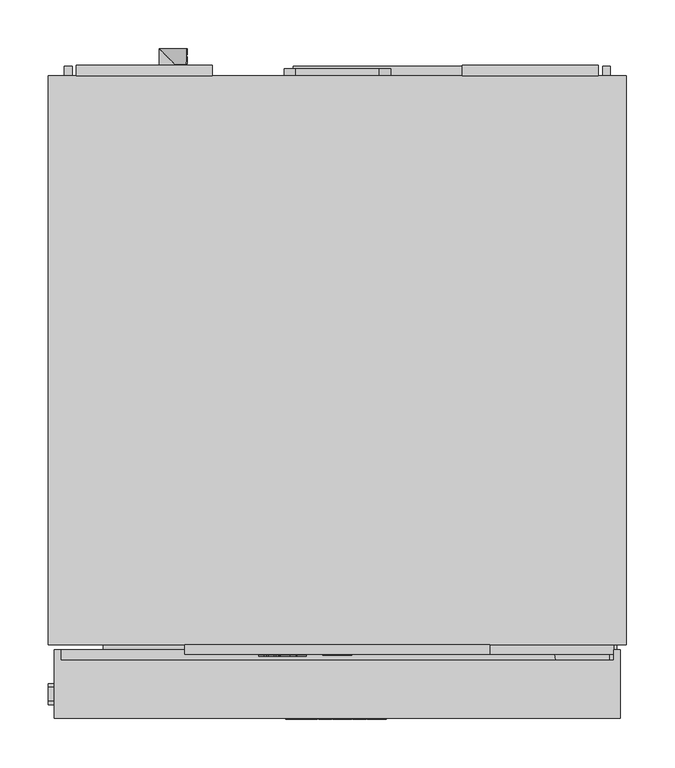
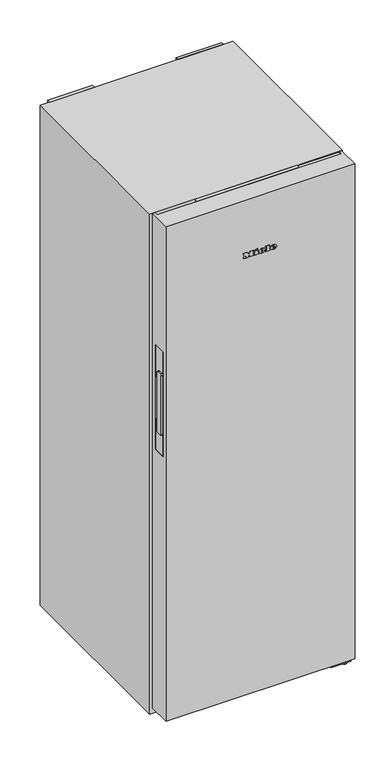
"""IFC4 building model written with IfcOpenShell, lengths in millimetres: proxy geometry, 12336550_EU1_FN4824C_WS : 37482434_EU1_12336550_FN4824C_WS."""

from ifc_helpers import new_model, si_unit, point, frame, frame_2d, origin, origin_with_axes, place, context, project, spatial, polyline, circle_curve, ellipse_curve, trimmed, segment, composite_curve, outline, extrude, faceted_brep, source, transform, mapped, element, save
from ifc_brep_helpers import plane_surface, cylinder_surface, revolved_surface, extruded_surface, advanced_brep


def specialty_equipment_60e76cb6(model_context):
    return source(origin(), model_context, "Body", "SolidModel", [
        extrude(outline(polyline([(15.0, -609.5), (-15.0, -609.5), (-15.0, -606.5), (15.0, -606.5), (15.0, -609.5)])), frame((0.0, 0.0, 1612.0), z_axis=(0.0, 0.0, 1.0), x_axis=(1.0, 0.0, 0.0)), (0.0, 0.0, 1.0), 28.0),
        extrude(outline(polyline([(1645.5, 105.0), (1645.5, -105.0), (1606.5, -105.0), (1606.5, 105.0), (1645.5, 105.0)]), holes=[polyline([(1640.0, -15.0), (1640.0, 15.0), (1612.0, 15.0), (1612.0, -15.0), (1640.0, -15.0)])]), frame((0.0, -608.5, 0.0), z_axis=(0.0, 1.0, 0.0), x_axis=(0.0, 0.0, 1.0)), (0.0, 0.0, 1.0), 2.0),
        faceted_brep([(157.5, -598.5, 1602.0), (157.5, -608.5, 1602.0), (-157.5, -608.5, 1602.0), (-157.5, -598.5, 1602.0), (157.5, -598.5, 1650.0), (-157.5, -598.5, 1650.0), (-157.5, -608.5, 1650.0), (157.5, -608.5, 1650.0), (-105.0, -608.5, 1645.5), (105.0, -608.5, 1645.5), (105.0, -608.5, 1606.5), (-105.0, -608.5, 1606.5), (105.0, -606.5, 1645.5), (-105.0, -606.5, 1645.5), (-105.0, -606.5, 1606.5), (105.0, -606.5, 1606.5)], [[[0, 1, 2, 3]], [[4, 5, 6, 7]], [[0, 3, 5, 4]], [[3, 2, 6, 5]], [[2, 1, 7, 6], [8, 9, 10, 11]], [[1, 0, 4, 7]], [[12, 13, 14, 15]], [[13, 12, 9, 8]], [[14, 13, 8, 11]], [[15, 14, 11, 10]], [[12, 15, 10, 9]]]),
        advanced_brep(
        [(39.0804776, -675.5, 1468.7956125), (39.0804776, -675.5, 1470.5126125), (50.4534776, -675.5, 1470.5126125), (30.6654776, -675.5, 1470.5126125), (35.3404776, -675.5, 1464.7666125), (50.1644776, -675.5, 1468.7956125), (45.0304776, -675.5, 1468.7956125), (40.9844776, -675.5, 1466.8916125), (39.0804776, -675.5, 1472.6886125), (39.0804776, -675.5, 1474.5416125), (41.9874776, -675.5, 1474.5416125), (41.9874776, -675.5, 1472.6886125), (39.0804776, -674.5, 1468.7956125), (40.9844776, -674.5, 1466.8916125), (45.0304776, -674.5, 1468.7956125), (50.1644776, -674.5, 1468.7956125), (35.3404776, -674.5, 1464.7666125), (30.6654776, -674.5, 1470.5126125), (50.4534776, -674.5, 1470.5126125), (39.0804776, -674.5, 1470.5126125), (39.0804776, -674.5, 1472.6886125), (41.9874776, -674.5, 1472.6886125), (41.9874776, -674.5, 1474.5416125), (39.0804776, -674.5, 1474.5416125)],
        [
            (0, 1),
            (1, 2),
            (2, 3, ellipse_curve(frame((40.5594776, -675.5, 1470.5126125), z_axis=(0.0, -1.0, 0.0), x_axis=(-1.0, 0.0, 0.0)), 9.894, 8.177)),
            (3, 4, circle_curve(frame((37.2445704, -675.5, 1471.0906125), z_axis=(0.0, -1.0, 0.0), x_axis=(0.0, 0.0, -1.0)), 6.6044337)),
            (4, 5, circle_curve(frame((40.361414, -675.5, 1475.5786125), z_axis=(0.0, -1.0, 0.0), x_axis=(0.0, 0.0, -1.0)), 11.9209541)),
            (5, 6),
            (6, 7, circle_curve(frame((41.8154776, -675.5, 1470.3766125), z_axis=(0.0, 1.0, 0.0), x_axis=(0.0, 0.0, -1.0)), 3.5827065)),
            (7, 0, circle_curve(frame((40.9844776, -675.5, 1468.7956125), z_axis=(0.0, 1.0, 0.0), x_axis=(0.0, 0.0, -1.0)), 1.904)),
            (8, 9),
            (9, 10, circle_curve(frame((40.5339776, -675.5, 1474.5416125), z_axis=(0.0, 1.0, 0.0), x_axis=(0.0, 0.0, -1.0)), 1.4535)),
            (10, 11),
            (11, 8),
            (12, 13, circle_curve(frame((40.9844776, -674.5, 1468.7956125), z_axis=(0.0, -1.0, 0.0), x_axis=(0.0, 0.0, -1.0)), 1.904)),
            (13, 14, circle_curve(frame((41.8154776, -674.5, 1470.3766125), z_axis=(0.0, -1.0, 0.0), x_axis=(0.0, 0.0, -1.0)), 3.5827065)),
            (14, 15),
            (15, 16, circle_curve(frame((40.361414, -674.5, 1475.5786125), z_axis=(0.0, 1.0, 0.0), x_axis=(0.0, 0.0, -1.0)), 11.9209541)),
            (16, 17, circle_curve(frame((37.2445704, -674.5, 1471.0906125), z_axis=(0.0, 1.0, 0.0), x_axis=(0.0, 0.0, -1.0)), 6.6044337)),
            (17, 18, ellipse_curve(frame((40.5594776, -674.5, 1470.5126125), z_axis=(0.0, 1.0, 0.0), x_axis=(-1.0, 0.0, 0.0)), 9.894, 8.177)),
            (18, 19),
            (19, 12),
            (20, 21),
            (21, 22),
            (22, 23, circle_curve(frame((40.5339776, -674.5, 1474.5416125), z_axis=(0.0, -1.0, 0.0), x_axis=(0.0, 0.0, -1.0)), 1.4535)),
            (23, 20),
            (0, 12),
            (19, 1),
            (18, 2),
            (5, 15),
            (14, 6),
            (17, 3),
            (13, 7),
            (16, 4),
            (8, 20),
            (23, 9),
            (22, 10),
            (21, 11),
        ],
        [
            plane_surface(frame((39.0804776, -675.5, 1470.5126125), z_axis=(0.0, -1.0, 0.0), x_axis=(0.0, 0.0, 1.0))),
            plane_surface(frame((39.0804776, -674.5, 1470.5126125), z_axis=(0.0, 1.0, 0.0), x_axis=(0.0, 0.0, -1.0))),
            plane_surface(frame((39.0804776, -675.5, 1468.7956125), z_axis=(1.0, 0.0, 0.0), x_axis=(0.0, 1.0, 0.0))),
            plane_surface(frame((39.0804776, -675.5, 1470.5126125), z_axis=(0.0, 0.0, -1.0), x_axis=(0.0, 1.0, 0.0))),
            plane_surface(frame((50.1644776, -675.5, 1468.7956125), z_axis=(0.0, 0.0, 1.0), x_axis=(0.0, 1.0, 0.0))),
            extruded_surface(trimmed(ellipse_curve(frame((40.5594776, -673.5, 1470.5126125), z_axis=(0.0, -1.0, 0.0), x_axis=(-1.0, 0.0, 0.0)), 9.894, 8.177), [point((50.4534776, -673.5, 1470.5126125))], [point((30.6654776, -673.5, 1470.5126125))], True, "CARTESIAN"), (0.0, -1.0, 0.0), 1.0),
            revolved_surface(polyline([(41.8154776, -674.5, 1466.7939059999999), (41.8154776, -675.5, 1466.7939059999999)]), (41.8154776, -674.5, 1470.3766125), (0.0, 1.0, 0.0)),
            revolved_surface(polyline([(40.9844776, -674.5, 1466.8916125), (40.9844776, -675.5, 1466.8916125)]), (40.9844776, -674.5, 1468.7956125), (0.0, 1.0, 0.0)),
            cylinder_surface(frame((37.2445704, -674.5, 1471.0906125), z_axis=(0.0, -1.0, 0.0), x_axis=(0.0, 0.0, -1.0)), 6.6044337),
            cylinder_surface(frame((40.361414, -674.5, 1475.5786125), z_axis=(0.0, -1.0, 0.0), x_axis=(0.0, 0.0, -1.0)), 11.9209541),
            plane_surface(frame((39.0804776, -675.5, 1472.6886125), z_axis=(1.0, 0.0, 0.0), x_axis=(0.0, 1.0, 0.0))),
            revolved_surface(polyline([(40.5339776, -674.5, 1473.0881124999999), (40.5339776, -675.5, 1473.0881124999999)]), (40.5339776, -674.5, 1474.5416125), (0.0, 1.0, 0.0)),
            plane_surface(frame((41.9874776, -675.5, 1474.5416125), z_axis=(-1.0, 0.0, 0.0), x_axis=(0.0, 1.0, 0.0))),
            plane_surface(frame((41.9874776, -675.5, 1472.6886125), z_axis=(0.0, 0.0, 1.0), x_axis=(0.0, 1.0, 0.0))),
        ],
        [
            (0, [[1, 2, 3, 4, 5, 6, 7, 8], [9, 10, 11, 12]]),
            (1, [[13, 14, 15, 16, 17, 18, 19, 20], [21, 22, 23, 24]]),
            (2, [[-1, 25, -20, 26]]),
            (3, [[-2, -26, -19, 27]]),
            (4, [[-6, 28, -15, 29]]),
            (5, [[-3, -27, -18, 30]]),
            (6, [[-7, -29, -14, 31]]),
            (7, [[-8, -31, -13, -25]]),
            (8, [[-4, -30, -17, 32]]),
            (9, [[-5, -32, -16, -28]]),
            (10, [[-9, 33, -24, 34]]),
            (11, [[-10, -34, -23, 35]]),
            (12, [[-11, -35, -22, 36]]),
            (13, [[-12, -36, -21, -33]]),
        ],
    ),
        advanced_brep(
        [(3.6014776, -675.5, 1468.7956125), (3.6014776, -675.5, 1470.5126125), (14.9744776, -675.5, 1470.5126125), (-4.8135224, -675.5, 1470.5126125), (-0.1385224, -675.5, 1464.7666125), (14.6854776, -675.5, 1468.7956125), (9.5514776, -675.5, 1468.7956125), (5.5054776, -675.5, 1466.8916125), (3.6014776, -675.5, 1472.6886125), (3.6014776, -675.5, 1474.5416125), (6.5084776, -675.5, 1474.5416125), (6.5084776, -675.5, 1472.6886125), (3.6014776, -674.5, 1468.7956125), (5.5054776, -674.5, 1466.8916125), (9.5514776, -674.5, 1468.7956125), (14.6854776, -674.5, 1468.7956125), (-0.1385224, -674.5, 1464.7666125), (-4.8135224, -674.5, 1470.5126125), (14.9744776, -674.5, 1470.5126125), (3.6014776, -674.5, 1470.5126125), (3.6014776, -674.5, 1472.6886125), (6.5084776, -674.5, 1472.6886125), (6.5084776, -674.5, 1474.5416125), (3.6014776, -674.5, 1474.5416125)],
        [
            (0, 1),
            (1, 2),
            (2, 3, ellipse_curve(frame((5.0804776, -675.5, 1470.5126125), z_axis=(0.0, -1.0, 0.0), x_axis=(-1.0, 0.0, 0.0)), 9.894, 8.177)),
            (3, 4, circle_curve(frame((1.7655704, -675.5, 1471.0906125), z_axis=(0.0, -1.0, 0.0), x_axis=(0.0, 0.0, -1.0)), 6.6044337)),
            (4, 5, circle_curve(frame((4.882414, -675.5, 1475.5786125), z_axis=(0.0, -1.0, 0.0), x_axis=(0.0, 0.0, -1.0)), 11.9209541)),
            (5, 6),
            (6, 7, circle_curve(frame((6.3364776, -675.5, 1470.3766125), z_axis=(0.0, 1.0, 0.0), x_axis=(0.0, 0.0, -1.0)), 3.5827065)),
            (7, 0, circle_curve(frame((5.5054776, -675.5, 1468.7956125), z_axis=(0.0, 1.0, 0.0), x_axis=(0.0, 0.0, -1.0)), 1.904)),
            (8, 9),
            (9, 10, circle_curve(frame((5.0549776, -675.5, 1474.5416125), z_axis=(0.0, 1.0, 0.0), x_axis=(0.0, 0.0, -1.0)), 1.4535)),
            (10, 11),
            (11, 8),
            (12, 13, circle_curve(frame((5.5054776, -674.5, 1468.7956125), z_axis=(0.0, -1.0, 0.0), x_axis=(0.0, 0.0, -1.0)), 1.904)),
            (13, 14, circle_curve(frame((6.3364776, -674.5, 1470.3766125), z_axis=(0.0, -1.0, 0.0), x_axis=(0.0, 0.0, -1.0)), 3.5827065)),
            (14, 15),
            (15, 16, circle_curve(frame((4.882414, -674.5, 1475.5786125), z_axis=(0.0, 1.0, 0.0), x_axis=(0.0, 0.0, -1.0)), 11.9209541)),
            (16, 17, circle_curve(frame((1.7655704, -674.5, 1471.0906125), z_axis=(0.0, 1.0, 0.0), x_axis=(0.0, 0.0, -1.0)), 6.6044337)),
            (17, 18, ellipse_curve(frame((5.0804776, -674.5, 1470.5126125), z_axis=(0.0, 1.0, 0.0), x_axis=(-1.0, 0.0, 0.0)), 9.894, 8.177)),
            (18, 19),
            (19, 12),
            (20, 21),
            (21, 22),
            (22, 23, circle_curve(frame((5.0549776, -674.5, 1474.5416125), z_axis=(0.0, -1.0, 0.0), x_axis=(0.0, 0.0, -1.0)), 1.4535)),
            (23, 20),
            (0, 12),
            (19, 1),
            (18, 2),
            (5, 15),
            (14, 6),
            (17, 3),
            (13, 7),
            (16, 4),
            (8, 20),
            (23, 9),
            (22, 10),
            (21, 11),
        ],
        [
            plane_surface(frame((3.6014776, -675.5, 1470.5126125), z_axis=(0.0, -1.0, 0.0), x_axis=(0.0, 0.0, 1.0))),
            plane_surface(frame((3.6014776, -674.5, 1470.5126125), z_axis=(0.0, 1.0, 0.0), x_axis=(0.0, 0.0, -1.0))),
            plane_surface(frame((3.6014776, -675.5, 1468.7956125), z_axis=(1.0, 0.0, 0.0), x_axis=(0.0, 1.0, 0.0))),
            plane_surface(frame((3.6014776, -675.5, 1470.5126125), z_axis=(0.0, 0.0, -1.0), x_axis=(0.0, 1.0, 0.0))),
            plane_surface(frame((14.6854776, -675.5, 1468.7956125), z_axis=(0.0, 0.0, 1.0), x_axis=(0.0, 1.0, 0.0))),
            extruded_surface(trimmed(ellipse_curve(frame((5.0804776, -673.5, 1470.5126125), z_axis=(0.0, -1.0, 0.0), x_axis=(-1.0, 0.0, 0.0)), 9.894, 8.177), [point((14.9744776, -673.5, 1470.5126125))], [point((-4.8135224, -673.5, 1470.5126125))], True, "CARTESIAN"), (0.0, -1.0, 0.0), 1.0),
            revolved_surface(polyline([(6.3364776, -674.5, 1466.7939059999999), (6.3364776, -675.5, 1466.7939059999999)]), (6.3364776, -674.5, 1470.3766125), (0.0, 1.0, 0.0)),
            revolved_surface(polyline([(5.5054776, -674.5, 1466.8916125), (5.5054776, -675.5, 1466.8916125)]), (5.5054776, -674.5, 1468.7956125), (0.0, 1.0, 0.0)),
            cylinder_surface(frame((1.7655704, -674.5, 1471.0906125), z_axis=(0.0, -1.0, 0.0), x_axis=(0.0, 0.0, -1.0)), 6.6044337),
            cylinder_surface(frame((4.882414, -674.5, 1475.5786125), z_axis=(0.0, -1.0, 0.0), x_axis=(0.0, 0.0, -1.0)), 11.9209541),
            plane_surface(frame((3.6014776, -675.5, 1472.6886125), z_axis=(1.0, 0.0, 0.0), x_axis=(0.0, 1.0, 0.0))),
            revolved_surface(polyline([(5.0549776, -674.5, 1473.0881124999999), (5.0549776, -675.5, 1473.0881124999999)]), (5.0549776, -674.5, 1474.5416125), (0.0, 1.0, 0.0)),
            plane_surface(frame((6.5084776, -675.5, 1474.5416125), z_axis=(-1.0, 0.0, 0.0), x_axis=(0.0, 1.0, 0.0))),
            plane_surface(frame((6.5084776, -675.5, 1472.6886125), z_axis=(0.0, 0.0, 1.0), x_axis=(0.0, 1.0, 0.0))),
        ],
        [
            (0, [[1, 2, 3, 4, 5, 6, 7, 8], [9, 10, 11, 12]]),
            (1, [[13, 14, 15, 16, 17, 18, 19, 20], [21, 22, 23, 24]]),
            (2, [[-1, 25, -20, 26]]),
            (3, [[-2, -26, -19, 27]]),
            (4, [[-6, 28, -15, 29]]),
            (5, [[-3, -27, -18, 30]]),
            (6, [[-7, -29, -14, 31]]),
            (7, [[-8, -31, -13, -25]]),
            (8, [[-4, -30, -17, 32]]),
            (9, [[-5, -32, -16, -28]]),
            (10, [[-9, 33, -24, 34]]),
            (11, [[-10, -34, -23, 35]]),
            (12, [[-11, -35, -22, 36]]),
            (13, [[-12, -36, -21, -33]]),
        ],
    ),
        extrude(outline(polyline([(1480.7636125, -14.9795224), (1478.0096125, -13.6875224), (1480.6956125, -7.9245224), (1483.4496125, -9.1995224), (1480.7636125, -14.9795224)])), frame((0.0, -675.5, 0.0), z_axis=(0.0, 1.0, 0.0), x_axis=(0.0, 0.0, 1.0)), (0.0, 0.0, 1.0), 1.0),
        extrude(outline(polyline([(1477.6356125, -19.1785224), (1474.5926125, -19.1785224), (1474.5926125, -17.1555224), (1467.6226125, -17.1555224), (1467.6226125, -19.1785224), (1464.7666125, -19.1785224), (1464.7666125, -5.7655224), (1467.6226125, -5.7655224), (1467.6226125, -7.7375224), (1477.6356125, -7.7375224), (1477.6356125, -19.1785224)])), frame((0.0, -675.5, 0.0), z_axis=(0.0, 1.0, 0.0), x_axis=(0.0, 0.0, 1.0)), (0.0, 0.0, 1.0), 1.0),
        extrude(outline(polyline([(1478.9956125, 15.9264776), (1478.9956125, 17.9664776), (1467.6226125, 17.9664776), (1467.6226125, 15.9264776), (1464.7666125, 15.9264776), (1464.7666125, 29.7134776), (1467.6226125, 29.7134776), (1467.6226125, 27.6224776), (1481.7666125, 27.6224776), (1481.7666125, 15.9264776), (1478.9956125, 15.9264776)])), frame((0.0, -675.5, 0.0), z_axis=(0.0, 1.0, 0.0), x_axis=(0.0, 0.0, 1.0)), (0.0, 0.0, 1.0), 1.0),
        extrude(outline(polyline([(1478.9956125, -53.0595224), (1478.9956125, -51.0025224), (1467.6226125, -51.0025224), (1467.6226125, -53.0595224), (1464.7666125, -53.0595224), (1464.7666125, -45.5795224), (1467.6226125, -45.5795224), (1467.6226125, -47.6195224), (1474.7967372, -47.6195224), (1464.7666125, -40.0205224), (1475.2068348, -32.3875224), (1467.6226125, -32.3875224), (1467.6226125, -34.4785224), (1464.7666125, -34.4785224), (1464.7666125, -20.9125224), (1467.6226125, -20.9125224), (1467.6226125, -23.0715224), (1478.9956125, -23.0715224), (1478.9956125, -20.9125224), (1481.7666125, -20.9125224), (1481.7666125, -31.2655224), (1475.3916125, -36.2295224), (1481.7666125, -41.2105224), (1481.7666125, -53.0595224), (1478.9956125, -53.0595224)])), frame((0.0, -675.5, 0.0), z_axis=(0.0, 1.0, 0.0), x_axis=(0.0, 0.0, 1.0)), (0.0, 0.0, 1.0), 1.0),
        advanced_brep(
        [(-37.64, -610.5, 1628.896), (-37.64, -610.5, 1629.704), (-32.288, -610.5, 1629.704), (-41.6, -610.5, 1629.704), (-39.4, -610.5, 1627.0), (-32.424, -610.5, 1628.896), (-34.84, -610.5, 1628.896), (-36.744, -610.5, 1628.0), (-37.64, -610.5, 1630.728), (-37.64, -610.5, 1631.6), (-36.272, -610.5, 1631.6), (-36.272, -610.5, 1630.728), (-37.64, -609.5, 1628.896), (-36.744, -609.5, 1628.0), (-34.84, -609.5, 1628.896), (-32.424, -609.5, 1628.896), (-39.4, -609.5, 1627.0), (-41.6, -609.5, 1629.704), (-32.288, -609.5, 1629.704), (-37.64, -609.5, 1629.704), (-37.64, -609.5, 1630.728), (-36.272, -609.5, 1630.728), (-36.272, -609.5, 1631.6), (-37.64, -609.5, 1631.6)],
        [
            (0, 1),
            (1, 2),
            (2, 3, ellipse_curve(frame((-36.944, -610.5, 1629.704), z_axis=(0.0, -1.0, 0.0), x_axis=(-1.0, 0.0, 0.0)), 4.656, 3.848)),
            (3, 4, circle_curve(frame((-38.5039564, -610.5, 1629.976), z_axis=(0.0, -1.0, 0.0), x_axis=(0.0, 0.0, -1.0)), 3.1079688)),
            (4, 5, circle_curve(frame((-37.0372064, -610.5, 1632.088), z_axis=(0.0, -1.0, 0.0), x_axis=(0.0, 0.0, -1.0)), 5.6098607)),
            (5, 6),
            (6, 7, circle_curve(frame((-36.3529412, -610.5, 1629.64), z_axis=(0.0, 1.0, 0.0), x_axis=(0.0, 0.0, -1.0)), 1.6859795)),
            (7, 0, circle_curve(frame((-36.744, -610.5, 1628.896), z_axis=(0.0, 1.0, 0.0), x_axis=(0.0, 0.0, -1.0)), 0.896)),
            (8, 9),
            (9, 10, circle_curve(frame((-36.956, -610.5, 1631.6), z_axis=(0.0, 1.0, 0.0), x_axis=(0.0, 0.0, -1.0)), 0.684)),
            (10, 11),
            (11, 8),
            (12, 13, circle_curve(frame((-36.744, -609.5, 1628.896), z_axis=(0.0, -1.0, 0.0), x_axis=(0.0, 0.0, -1.0)), 0.896)),
            (13, 14, circle_curve(frame((-36.3529412, -609.5, 1629.64), z_axis=(0.0, -1.0, 0.0), x_axis=(0.0, 0.0, -1.0)), 1.6859795)),
            (14, 15),
            (15, 16, circle_curve(frame((-37.0372064, -609.5, 1632.088), z_axis=(0.0, 1.0, 0.0), x_axis=(0.0, 0.0, -1.0)), 5.6098607)),
            (16, 17, circle_curve(frame((-38.5039564, -609.5, 1629.976), z_axis=(0.0, 1.0, 0.0), x_axis=(0.0, 0.0, -1.0)), 3.1079688)),
            (17, 18, ellipse_curve(frame((-36.944, -609.5, 1629.704), z_axis=(0.0, 1.0, 0.0), x_axis=(-1.0, 0.0, 0.0)), 4.656, 3.848)),
            (18, 19),
            (19, 12),
            (20, 21),
            (21, 22),
            (22, 23, circle_curve(frame((-36.956, -609.5, 1631.6), z_axis=(0.0, -1.0, 0.0), x_axis=(0.0, 0.0, -1.0)), 0.684)),
            (23, 20),
            (0, 12),
            (19, 1),
            (18, 2),
            (5, 15),
            (14, 6),
            (17, 3),
            (13, 7),
            (16, 4),
            (8, 20),
            (23, 9),
            (22, 10),
            (21, 11),
        ],
        [
            plane_surface(frame((-37.64, -610.5, 1629.704), z_axis=(0.0, -1.0, 0.0), x_axis=(0.0, 0.0, 1.0))),
            plane_surface(frame((-37.64, -609.5, 1629.704), z_axis=(0.0, 1.0, 0.0), x_axis=(0.0, 0.0, -1.0))),
            plane_surface(frame((-37.64, -610.5, 1628.896), z_axis=(1.0, 0.0, 0.0), x_axis=(0.0, 1.0, 0.0))),
            plane_surface(frame((-37.64, -610.5, 1629.704), z_axis=(0.0, 0.0, -1.0), x_axis=(0.0, 1.0, 0.0))),
            plane_surface(frame((-32.424, -610.5, 1628.896), z_axis=(0.0, 0.0, 1.0), x_axis=(0.0, 1.0, 0.0))),
            extruded_surface(trimmed(ellipse_curve(frame((-36.944, -608.5, 1629.704), z_axis=(0.0, -1.0, 0.0), x_axis=(-1.0, 0.0, 0.0)), 4.656, 3.848), [point((-32.288, -608.5, 1629.704))], [point((-41.6, -608.5, 1629.704))], True, "CARTESIAN"), (0.0, -1.0, 0.0), 1.0),
            revolved_surface(polyline([(-36.3529412, -609.5, 1627.9540205), (-36.3529412, -610.5, 1627.9540205)]), (-36.3529412, -609.5, 1629.64), (0.0, 1.0, 0.0)),
            revolved_surface(polyline([(-36.744, -609.5, 1628.0), (-36.744, -610.5, 1628.0)]), (-36.744, -609.5, 1628.896), (0.0, 1.0, 0.0)),
            cylinder_surface(frame((-38.5039564, -609.5, 1629.976), z_axis=(0.0, -1.0, 0.0), x_axis=(0.0, 0.0, -1.0)), 3.1079688),
            cylinder_surface(frame((-37.0372064, -609.5, 1632.088), z_axis=(0.0, -1.0, 0.0), x_axis=(0.0, 0.0, -1.0)), 5.6098607),
            plane_surface(frame((-37.64, -610.5, 1630.728), z_axis=(1.0, 0.0, 0.0), x_axis=(0.0, 1.0, 0.0))),
            revolved_surface(polyline([(-36.956, -609.5, 1630.916), (-36.956, -610.5, 1630.916)]), (-36.956, -609.5, 1631.6), (0.0, 1.0, 0.0)),
            plane_surface(frame((-36.272, -610.5, 1631.6), z_axis=(-1.0, 0.0, 0.0), x_axis=(0.0, 1.0, 0.0))),
            plane_surface(frame((-36.272, -610.5, 1630.728), z_axis=(0.0, 0.0, 1.0), x_axis=(0.0, 1.0, 0.0))),
        ],
        [
            (0, [[1, 2, 3, 4, 5, 6, 7, 8], [9, 10, 11, 12]]),
            (1, [[13, 14, 15, 16, 17, 18, 19, 20], [21, 22, 23, 24]]),
            (2, [[-1, 25, -20, 26]]),
            (3, [[-2, -26, -19, 27]]),
            (4, [[-6, 28, -15, 29]]),
            (5, [[-3, -27, -18, 30]]),
            (6, [[-7, -29, -14, 31]]),
            (7, [[-8, -31, -13, -25]]),
            (8, [[-4, -30, -17, 32]]),
            (9, [[-5, -32, -16, -28]]),
            (10, [[-9, 33, -24, 34]]),
            (11, [[-10, -34, -23, 35]]),
            (12, [[-11, -35, -22, 36]]),
            (13, [[-12, -36, -21, -33]]),
        ],
    ),
        advanced_brep(
        [(-54.336, -610.5, 1628.896), (-54.336, -610.5, 1629.704), (-48.984, -610.5, 1629.704), (-58.296, -610.5, 1629.704), (-56.096, -610.5, 1627.0), (-49.12, -610.5, 1628.896), (-51.536, -610.5, 1628.896), (-53.44, -610.5, 1628.0), (-54.336, -610.5, 1630.728), (-54.336, -610.5, 1631.6), (-52.968, -610.5, 1631.6), (-52.968, -610.5, 1630.728), (-54.336, -609.5, 1628.896), (-53.44, -609.5, 1628.0), (-51.536, -609.5, 1628.896), (-49.12, -609.5, 1628.896), (-56.096, -609.5, 1627.0), (-58.296, -609.5, 1629.704), (-48.984, -609.5, 1629.704), (-54.336, -609.5, 1629.704), (-54.336, -609.5, 1630.728), (-52.968, -609.5, 1630.728), (-52.968, -609.5, 1631.6), (-54.336, -609.5, 1631.6)],
        [
            (0, 1),
            (1, 2),
            (2, 3, ellipse_curve(frame((-53.64, -610.5, 1629.704), z_axis=(0.0, -1.0, 0.0), x_axis=(-1.0, 0.0, 0.0)), 4.656, 3.848)),
            (3, 4, circle_curve(frame((-55.1999564, -610.5, 1629.976), z_axis=(0.0, -1.0, 0.0), x_axis=(0.0, 0.0, -1.0)), 3.1079688)),
            (4, 5, circle_curve(frame((-53.7332064, -610.5, 1632.088), z_axis=(0.0, -1.0, 0.0), x_axis=(0.0, 0.0, -1.0)), 5.6098607)),
            (5, 6),
            (6, 7, circle_curve(frame((-53.0489412, -610.5, 1629.64), z_axis=(0.0, 1.0, 0.0), x_axis=(0.0, 0.0, -1.0)), 1.6859795)),
            (7, 0, circle_curve(frame((-53.44, -610.5, 1628.896), z_axis=(0.0, 1.0, 0.0), x_axis=(0.0, 0.0, -1.0)), 0.896)),
            (8, 9),
            (9, 10, circle_curve(frame((-53.652, -610.5, 1631.6), z_axis=(0.0, 1.0, 0.0), x_axis=(0.0, 0.0, -1.0)), 0.684)),
            (10, 11),
            (11, 8),
            (12, 13, circle_curve(frame((-53.44, -609.5, 1628.896), z_axis=(0.0, -1.0, 0.0), x_axis=(0.0, 0.0, -1.0)), 0.896)),
            (13, 14, circle_curve(frame((-53.0489412, -609.5, 1629.64), z_axis=(0.0, -1.0, 0.0), x_axis=(0.0, 0.0, -1.0)), 1.6859795)),
            (14, 15),
            (15, 16, circle_curve(frame((-53.7332064, -609.5, 1632.088), z_axis=(0.0, 1.0, 0.0), x_axis=(0.0, 0.0, -1.0)), 5.6098607)),
            (16, 17, circle_curve(frame((-55.1999564, -609.5, 1629.976), z_axis=(0.0, 1.0, 0.0), x_axis=(0.0, 0.0, -1.0)), 3.1079688)),
            (17, 18, ellipse_curve(frame((-53.64, -609.5, 1629.704), z_axis=(0.0, 1.0, 0.0), x_axis=(-1.0, 0.0, 0.0)), 4.656, 3.848)),
            (18, 19),
            (19, 12),
            (20, 21),
            (21, 22),
            (22, 23, circle_curve(frame((-53.652, -609.5, 1631.6), z_axis=(0.0, -1.0, 0.0), x_axis=(0.0, 0.0, -1.0)), 0.684)),
            (23, 20),
            (0, 12),
            (19, 1),
            (18, 2),
            (5, 15),
            (14, 6),
            (17, 3),
            (13, 7),
            (16, 4),
            (8, 20),
            (23, 9),
            (22, 10),
            (21, 11),
        ],
        [
            plane_surface(frame((-54.336, -610.5, 1629.704), z_axis=(0.0, -1.0, 0.0), x_axis=(0.0, 0.0, 1.0))),
            plane_surface(frame((-54.336, -609.5, 1629.704), z_axis=(0.0, 1.0, 0.0), x_axis=(0.0, 0.0, -1.0))),
            plane_surface(frame((-54.336, -610.5, 1628.896), z_axis=(1.0, 0.0, 0.0), x_axis=(0.0, 1.0, 0.0))),
            plane_surface(frame((-54.336, -610.5, 1629.704), z_axis=(0.0, 0.0, -1.0), x_axis=(0.0, 1.0, 0.0))),
            plane_surface(frame((-49.12, -610.5, 1628.896), z_axis=(0.0, 0.0, 1.0), x_axis=(0.0, 1.0, 0.0))),
            extruded_surface(trimmed(ellipse_curve(frame((-53.64, -608.5, 1629.704), z_axis=(0.0, -1.0, 0.0), x_axis=(-1.0, 0.0, 0.0)), 4.656, 3.848), [point((-48.984, -608.5, 1629.704))], [point((-58.296, -608.5, 1629.704))], True, "CARTESIAN"), (0.0, -1.0, 0.0), 1.0),
            revolved_surface(polyline([(-53.0489412, -609.5, 1627.9540205), (-53.0489412, -610.5, 1627.9540205)]), (-53.0489412, -609.5, 1629.64), (0.0, 1.0, 0.0)),
            revolved_surface(polyline([(-53.44, -609.5, 1628.0), (-53.44, -610.5, 1628.0)]), (-53.44, -609.5, 1628.896), (0.0, 1.0, 0.0)),
            cylinder_surface(frame((-55.1999564, -609.5, 1629.976), z_axis=(0.0, -1.0, 0.0), x_axis=(0.0, 0.0, -1.0)), 3.1079688),
            cylinder_surface(frame((-53.7332064, -609.5, 1632.088), z_axis=(0.0, -1.0, 0.0), x_axis=(0.0, 0.0, -1.0)), 5.6098607),
            plane_surface(frame((-54.336, -610.5, 1630.728), z_axis=(1.0, 0.0, 0.0), x_axis=(0.0, 1.0, 0.0))),
            revolved_surface(polyline([(-53.652, -609.5, 1630.916), (-53.652, -610.5, 1630.916)]), (-53.652, -609.5, 1631.6), (0.0, 1.0, 0.0)),
            plane_surface(frame((-52.968, -610.5, 1631.6), z_axis=(-1.0, 0.0, 0.0), x_axis=(0.0, 1.0, 0.0))),
            plane_surface(frame((-52.968, -610.5, 1630.728), z_axis=(0.0, 0.0, 1.0), x_axis=(0.0, 1.0, 0.0))),
        ],
        [
            (0, [[1, 2, 3, 4, 5, 6, 7, 8], [9, 10, 11, 12]]),
            (1, [[13, 14, 15, 16, 17, 18, 19, 20], [21, 22, 23, 24]]),
            (2, [[-1, 25, -20, 26]]),
            (3, [[-2, -26, -19, 27]]),
            (4, [[-6, 28, -15, 29]]),
            (5, [[-3, -27, -18, 30]]),
            (6, [[-7, -29, -14, 31]]),
            (7, [[-8, -31, -13, -25]]),
            (8, [[-4, -30, -17, 32]]),
            (9, [[-5, -32, -16, -28]]),
            (10, [[-9, 33, -24, 34]]),
            (11, [[-10, -34, -23, 35]]),
            (12, [[-11, -35, -22, 36]]),
            (13, [[-12, -36, -21, -33]]),
        ],
    ),
        extrude(outline(polyline([(1634.528, -63.08), (1633.232, -62.472), (1634.496, -59.76), (1635.792, -60.36), (1634.528, -63.08)])), frame((0.0, -610.5, 0.0), z_axis=(0.0, 1.0, 0.0), x_axis=(0.0, 0.0, 1.0)), (0.0, 0.0, 1.0), 1.0),
        extrude(outline(polyline([(1633.056, -65.056), (1631.624, -65.056), (1631.624, -64.104), (1628.344, -64.104), (1628.344, -65.056), (1627.0, -65.056), (1627.0, -58.744), (1628.344, -58.744), (1628.344, -59.672), (1633.056, -59.672), (1633.056, -65.056)])), frame((0.0, -610.5, 0.0), z_axis=(0.0, 1.0, 0.0), x_axis=(0.0, 0.0, 1.0)), (0.0, 0.0, 1.0), 1.0),
        extrude(outline(polyline([(1633.696, -48.536), (1633.696, -47.576), (1628.344, -47.576), (1628.344, -48.536), (1627.0, -48.536), (1627.0, -42.048), (1628.344, -42.048), (1628.344, -43.032), (1635.0, -43.032), (1635.0, -48.536), (1633.696, -48.536)])), frame((0.0, -610.5, 0.0), z_axis=(0.0, 1.0, 0.0), x_axis=(0.0, 0.0, 1.0)), (0.0, 0.0, 1.0), 1.0),
        extrude(outline(polyline([(1633.696, -81.0), (1633.696, -80.032), (1628.344, -80.032), (1628.344, -81.0), (1627.0, -81.0), (1627.0, -77.48), (1628.344, -77.48), (1628.344, -78.44), (1631.7471247, -78.44), (1627.0, -74.864), (1631.8152223, -71.272), (1628.344, -71.272), (1628.344, -72.256), (1627.0, -72.256), (1627.0, -65.872), (1628.344, -65.872), (1628.344, -66.888), (1633.696, -66.888), (1633.696, -65.872), (1635.0, -65.872), (1635.0, -70.744), (1632.0, -73.08), (1635.0, -75.424), (1635.0, -81.0), (1633.696, -81.0)])), frame((0.0, -610.5, 0.0), z_axis=(0.0, 1.0, 0.0), x_axis=(0.0, 0.0, 1.0)), (0.0, 0.0, 1.0), 1.0),
        extrude(outline(polyline([(-42.8527823, 0.0), (-48.1304417, 3.2708192), (-29.8908031, 3.2708192), (-34.9274229, 0.0), (-42.8527823, 0.0)])), frame((238.5469678, 0.0, 0.0), z_axis=(1.0, 0.0, 0.0), x_axis=(0.0, 1.0, 0.0)), (0.0, 0.0, 1.0), 15.1632647),
        extrude(outline(polyline([(-42.8527823, 0.0), (-48.1304417, 3.2708192), (-29.8908031, 3.2708192), (-34.9274229, 0.0), (-42.8527823, 0.0)])), frame((-253.7102325, 0.0, 0.0), z_axis=(1.0, 0.0, 0.0), x_axis=(0.0, 1.0, 0.0)), (0.0, 0.0, 1.0), 15.1632647),
        extrude(outline(polyline([(2.1227397, 65.0), (2.1227397, 75.045631), (9.343037, 75.045631), (9.343037, 73.7899271), (3.3784436, 73.7899271), (3.3784436, 70.8076304), (9.029111, 70.8076304), (9.029111, 69.5519266), (3.3784436, 69.5519266), (3.3784436, 66.2557039), (9.5, 66.2557039), (9.5, 65.0), (2.1227397, 65.0)])), frame((-156.0615355, 0.0, 0.0), z_axis=(1.0, 0.0, 0.0), x_axis=(0.0, 1.0, 0.0)), (0.0, 0.0, 1.0), 1.0),
        extrude(outline(polyline([(11.3835558, 65.0), (11.3835558, 75.045631), (12.6392597, 75.045631), (12.6392597, 66.2557039), (17.6620752, 66.2557039), (17.6620752, 65.0), (11.3835558, 65.0)])), frame((-156.0615355, 0.0, 0.0), z_axis=(1.0, 0.0, 0.0), x_axis=(0.0, 1.0, 0.0)), (0.0, 0.0, 1.0), 1.0),
        advanced_brep(
        [(-168.0615355, -10.5, 70.0), (-184.0615355, -10.5, 70.0), (-168.0615355, 1.5, 70.0), (-184.0615355, 17.5, 70.0), (-156.0615355, 1.5, 70.0), (-156.0615355, 17.5, 70.0)],
        [
            (0, 1, circle_curve(frame((-176.0615355, -10.5, 70.0), z_axis=(0.0, -1.0, 0.0), x_axis=(-1.0, 0.0, 0.0)), 8.0)),
            (1, 0, circle_curve(frame((-176.0615355, -10.5, 70.0), z_axis=(0.0, -1.0, 0.0), x_axis=(-1.0, 0.0, 0.0)), 8.0)),
            (0, 2),
            (2, 3, ellipse_curve(frame((-176.0615355, 9.5, 70.0), z_axis=(-0.7071067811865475, -0.7071067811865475, 0.0), x_axis=(0.7071067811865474, -0.7071067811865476, 0.0)), 11.3137085, 8.0)),
            (3, 1),
            (3, 2, ellipse_curve(frame((-176.0615355, 9.5, 70.0), z_axis=(-0.7071067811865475, -0.7071067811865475, 0.0), x_axis=(0.7071067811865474, -0.7071067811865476, 0.0)), 11.3137085, 8.0)),
            (4, 5, circle_curve(frame((-156.0615355, 9.5, 70.0), z_axis=(1.0, 0.0, 0.0), x_axis=(0.0, 1.0, 0.0)), 8.0)),
            (5, 4, circle_curve(frame((-156.0615355, 9.5, 70.0), z_axis=(1.0, 0.0, 0.0), x_axis=(0.0, 1.0, 0.0)), 8.0)),
            (2, 4),
            (5, 3),
        ],
        [
            plane_surface(frame((-176.0615355, -10.5, 0.0), z_axis=(0.0, -1.0, 0.0), x_axis=(0.0, 0.0, 1.0))),
            cylinder_surface(frame((-176.0615355, -10.5, 70.0), z_axis=(0.0, -1.0, 0.0), x_axis=(-1.0, 0.0, 0.0)), 8.0),
            plane_surface(frame((-156.0615355, 9.5, 0.0), z_axis=(1.0, 0.0, 0.0), x_axis=(0.0, 0.0, 1.0))),
            cylinder_surface(frame((-176.0615355, 9.5, 70.0), z_axis=(-1.0, 0.0, 0.0), x_axis=(0.0, 1.0, 0.0)), 8.0),
        ],
        [
            (0, [[1, 2]]),
            (1, [[-1, 3, 4, 5]]),
            (1, [[-2, -5, 6, -3]]),
            (2, [[7, 8]]),
            (3, [[-4, 9, -8, 10]]),
            (3, [[-6, -10, -7, -9]]),
        ],
    ),
        extrude(outline(polyline([(-118.9841834, 15.0), (-62.9841834, 15.0), (-75.5706779, 0.0), (-106.3976889, 0.0), (-118.9841834, 15.0)])), frame((-288.5, 0.0, 0.0), z_axis=(1.0, 0.0, 0.0), x_axis=(0.0, 1.0, 0.0)), (0.0, 0.0, 1.0), 16.0),
        extrude(outline(polyline([(-118.9841834, 15.0), (-62.9841834, 15.0), (-75.5706779, 0.0), (-106.3976889, 0.0), (-118.9841834, 15.0)])), frame((272.5, 0.0, 0.0), z_axis=(1.0, 0.0, 0.0), x_axis=(0.0, 1.0, 0.0)), (0.0, 0.0, 1.0), 16.0),
        extrude(outline(polyline([(281.8051758, -10.5), (274.2947998, -10.5), (274.2947998, -0.5), (281.8051758, -0.5), (281.8051758, -10.5)])), frame((0.0, 0.0, 239.4947815), z_axis=(0.0, 0.0, 1.0), x_axis=(1.0, 0.0, 0.0)), (0.0, 0.0, 1.0), 18.4103699),
        extrude(outline(polyline([(-274.0827332, -10.5), (-282.1051331, -10.5), (-282.1051331, -0.5), (-274.0827332, -0.5), (-274.0827332, -10.5)])), frame((0.0, 0.0, 239.4947815), z_axis=(0.0, 0.0, 1.0), x_axis=(1.0, 0.0, 0.0)), (0.0, 0.0, 1.0), 18.3224792),
        extrude(outline(polyline([(190.0, 177.5), (133.0, 177.5), (133.0, -45.5), (64.0, -45.5), (64.0, 258.5), (190.0, 258.5), (190.0, 177.5)])), frame((0.0, -10.5, 0.0), z_axis=(0.0, 1.0, 0.0), x_axis=(0.0, 0.0, 1.0)), (0.0, 0.0, 1.0), 10.0),
        extrude(outline(polyline([(269.5372046, -10.5), (129.0, -10.5), (129.0, 0.0), (269.5372046, 0.0), (269.5372046, -10.5)])), frame((0.0, 0.0, 1626.0), z_axis=(0.0, 0.0, 1.0), x_axis=(1.0, 0.0, 0.0)), (0.0, 0.0, 1.0), 24.0),
        extrude(outline(polyline([(-129.0, -10.5), (-269.5372046, -10.5), (-269.5372046, 0.0), (-129.0, 0.0), (-129.0, -10.5)])), frame((0.0, 0.0, 1626.0), z_axis=(0.0, 0.0, 1.0), x_axis=(1.0, 0.0, 0.0)), (0.0, 0.0, 1.0), 24.0),
        extrude(outline(polyline([(64.0, -159.5), (-64.0, -159.5), (-64.0, -71.5), (64.0, -71.5), (64.0, -159.5)])), frame((0.0, 0.0, 1436.0), z_axis=(0.0, 0.0, 1.0), x_axis=(1.0, 0.0, 0.0)), (0.0, 0.0, 1.0), 177.6535004),
        extrude(outline(polyline([(55.0, -521.5), (55.0, -575.5), (-55.0, -575.5), (-55.0, -521.5), (55.0, -521.5)])), frame((0.0, 0.0, 1559.0), z_axis=(0.0, 0.0, 1.0), x_axis=(1.0, 0.0, 0.0)), (0.0, 0.0, 1.0), 1.0),
        extrude(outline(composite_curve([segment(trimmed(circle_curve(frame_2d((-248.75, -584.5)), 10.0), [point((-258.75, -584.5))], [point((-238.75, -584.5))], False, "CARTESIAN"), True, "CONTINUOUS"), segment(trimmed(circle_curve(frame_2d((-248.75, -584.5)), 10.0), [point((-238.75, -584.5))], [point((-258.75, -584.5))], False, "CARTESIAN"), True, "CONTINUOUS")], self_intersect=False)), origin_with_axes(), (0.0, 0.0, 1.0), 15.0),
        extrude(outline(composite_curve([segment(trimmed(circle_curve(frame_2d((248.75, -584.4761218)), 10.0), [point((238.75, -584.4761218))], [point((258.75, -584.4761218))], False, "CARTESIAN"), True, "CONTINUOUS"), segment(trimmed(circle_curve(frame_2d((248.75, -584.4761218)), 10.0), [point((258.75, -584.4761218))], [point((238.75, -584.4761218))], False, "CARTESIAN"), True, "CONTINUOUS")], self_intersect=False)), origin_with_axes(), (0.0, 0.0, 1.0), 15.0),
        extrude(outline(polyline([(240.0, -290.5), (-240.0, -290.5), (-240.0, -71.5), (240.0, -71.5), (240.0, -290.5)])), frame((0.0, 0.0, 129.0), z_axis=(0.0, 0.0, 1.0), x_axis=(1.0, 0.0, 0.0)), (0.0, 0.0, 1.0), 190.0),
        extrude(outline(composite_curve([segment(trimmed(circle_curve(frame_2d((962.0, -43.0)), 12.0), [point((974.0, -43.0))], [point((962.0, -55.0))], False, "CARTESIAN"), True, "CONTINUOUS"), segment(polyline([(962.0, -55.0), (938.0, -55.0)]), True, "CONTINUOUS"), segment(trimmed(circle_curve(frame_2d((938.0, -43.0)), 12.0), [point((938.0, -55.0))], [point((926.0, -43.0))], False, "CARTESIAN"), True, "CONTINUOUS"), segment(polyline([(926.0, -43.0), (926.0, 43.0)]), True, "CONTINUOUS"), segment(trimmed(circle_curve(frame_2d((938.0, 43.0)), 12.0), [point((926.0, 43.0))], [point((938.0, 55.0))], False, "CARTESIAN"), True, "CONTINUOUS"), segment(polyline([(938.0, 55.0), (962.0, 55.0)]), True, "CONTINUOUS"), segment(trimmed(circle_curve(frame_2d((962.0, 43.0)), 12.0), [point((962.0, 55.0))], [point((974.0, 43.0))], False, "CARTESIAN"), True, "CONTINUOUS"), segment(polyline([(974.0, 43.0), (974.0, -43.0)]), True, "CONTINUOUS")], self_intersect=False)), frame((0.0, -10.5, 0.0), z_axis=(0.0, 1.0, 0.0), x_axis=(0.0, 0.0, 1.0)), (0.0, 0.0, 1.0), 7.0),
        extrude(outline(polyline([(272.5, -28.6436023), (272.5, -529.6387407), (-272.5, -529.6387407), (-272.5, -28.6436023), (272.5, -28.6436023)])), frame((0.0, 0.0, 3.2708192), z_axis=(0.0, 0.0, 1.0), x_axis=(1.0, 0.0, 0.0)), (0.0, 0.0, 1.0), 11.7291808),
        faceted_brep([(298.5, -10.5, 1650.0), (-298.5, -10.5, 1650.0), (-298.5, -598.5, 1650.0), (298.5, -598.5, 1650.0), (298.5, -10.5, 15.0), (298.5, -598.5, 15.0), (-298.5, -598.5, 15.0), (-298.5, -10.5, 15.0), (-240.0, -598.5, 1560.0), (240.0, -598.5, 1560.0), (240.0, -598.5, 129.0), (-240.0, -598.5, 129.0), (-240.0, -468.5, 1560.0), (240.0, -468.5, 1560.0), (240.0, -71.5, 129.0), (-240.0, -71.5, 129.0), (240.0, -71.5, 1613.6535004), (-240.0, -71.5, 1613.6535004), (-240.0, -468.5, 1613.6535004), (240.0, -468.5, 1613.6535004)], [[[0, 1, 2, 3]], [[4, 5, 6, 7]], [[1, 0, 4, 7]], [[2, 1, 7, 6]], [[3, 2, 6, 5], [8, 9, 10, 11]], [[0, 3, 5, 4]], [[9, 8, 12, 13]], [[14, 15, 11, 10]], [[15, 14, 16, 17]], [[15, 17, 18, 12, 8, 11]], [[16, 14, 10, 9, 13, 19]], [[19, 18, 17, 16]], [[18, 19, 13, 12]]]),
        extrude(outline(polyline([(-620.5, 1234.0), (-620.5, 1132.0), (-638.382514, 1132.0), (-638.382514, 992.5014777), (-620.5, 992.5014777), (-620.5, 893.0), (-660.5, 893.0), (-660.5, 1234.0), (-620.5, 1234.0)])), frame((-292.5, 0.0, 0.0), z_axis=(1.0, 0.0, 0.0), x_axis=(0.0, 1.0, 0.0)), (0.0, 0.0, 1.0), 30.0),
        extrude(outline(composite_curve([segment(polyline([(-638.5, 1158.0), (-638.5, 967.0)]), True, "CONTINUOUS"), segment(trimmed(circle_curve(frame_2d((-642.5, 967.0)), 4.0), [point((-638.5, 967.0))], [point((-642.5, 963.0))], False, "CARTESIAN"), True, "CONTINUOUS"), segment(polyline([(-642.5, 963.0), (-656.5, 963.0)]), True, "CONTINUOUS"), segment(trimmed(circle_curve(frame_2d((-656.5, 967.0)), 4.0), [point((-656.5, 963.0))], [point((-660.5, 967.0))], False, "CARTESIAN"), True, "CONTINUOUS"), segment(polyline([(-660.5, 967.0), (-660.5, 1158.0)]), True, "CONTINUOUS"), segment(trimmed(circle_curve(frame_2d((-656.5, 1158.0)), 4.0), [point((-660.5, 1158.0))], [point((-656.5, 1162.0))], False, "CARTESIAN"), True, "CONTINUOUS"), segment(polyline([(-656.5, 1162.0), (-642.5, 1162.0)]), True, "CONTINUOUS"), segment(trimmed(circle_curve(frame_2d((-642.5, 1158.0)), 4.0), [point((-642.5, 1162.0))], [point((-638.5, 1158.0))], False, "CARTESIAN"), True, "CONTINUOUS")], self_intersect=False)), frame((-298.5, 0.0, 0.0), z_axis=(1.0, 0.0, 0.0), x_axis=(0.0, 1.0, 0.0)), (0.0, 0.0, 1.0), 6.0),
        extrude(outline(composite_curve([segment(trimmed(circle_curve(frame_2d((276.9539666, -644.7854989)), 7.0), [point((269.9539666, -644.7854989))], [point((283.9539666, -644.7854989))], False, "CARTESIAN"), True, "CONTINUOUS"), segment(trimmed(circle_curve(frame_2d((276.9539666, -644.7854989)), 7.0), [point((283.9539666, -644.7854989))], [point((269.9539666, -644.7854989))], False, "CARTESIAN"), True, "CONTINUOUS")], self_intersect=False)), frame((0.0, 0.0, 10.0), z_axis=(0.0, 0.0, 1.0), x_axis=(1.0, 0.0, 0.0)), (0.0, 0.0, 1.0), 11.0),
        extrude(outline(polyline([(291.8779467, -660.5), (227.8680756, -660.5), (227.8680756, -603.5), (291.8779467, -603.5), (291.8779467, -660.5)])), frame((0.0, 0.0, 31.5014777), z_axis=(0.0, 0.0, 1.0), x_axis=(1.0, 0.0, 0.0)), (0.0, 0.0, 1.0), 4.4985223),
        extrude(outline(composite_curve([segment(trimmed(circle_curve(frame_2d((274.5, -642.5)), 10.0), [point((264.5, -642.5))], [point((284.5, -642.5))], False, "CARTESIAN"), True, "CONTINUOUS"), segment(trimmed(circle_curve(frame_2d((274.5, -642.5)), 10.0), [point((284.5, -642.5))], [point((264.5, -642.5))], False, "CARTESIAN"), True, "CONTINUOUS")], self_intersect=False)), frame((0.0, 0.0, 27.0014777), z_axis=(0.0, 0.0, 1.0), x_axis=(1.0, 0.0, 0.0)), (0.0, 0.0, 1.0), 4.5),
        extrude(outline(polyline([(242.0, -603.5), (-242.0, -603.5), (-242.0, -598.5), (242.0, -598.5), (242.0, -603.5)])), frame((0.0, 0.0, 128.0014777), z_axis=(0.0, 0.0, 1.0), x_axis=(1.0, 0.0, 0.0)), (0.0, 0.0, 1.0), 1439.0),
        extrude(outline(polyline([(233.3907627, -657.6644264), (224.7217479, -608.5), (280.684623, -608.5), (282.5, -657.6644264), (233.3907627, -657.6644264)])), frame((0.0, 0.0, 1617.6745089), z_axis=(0.0, 0.0, 1.0), x_axis=(1.0, 0.0, 0.0)), (0.0, 0.0, 1.0), 23.7898602),
        extrude(outline(polyline([(285.5, -608.5), (157.5, -608.5), (157.5, -598.5), (285.5, -598.5), (285.5, -608.5)])), frame((0.0, 0.0, 1600.5014777), z_axis=(0.0, 0.0, 1.0), x_axis=(1.0, 0.0, 0.0)), (0.0, 0.0, 1.0), 48.0),
        extrude(outline(polyline([(-598.5, 21.0), (-660.5, 21.0), (-660.5, 27.0014777), (-603.5, 27.0014777), (-603.5, 69.0014777), (-598.5, 69.0014777), (-598.5, 21.0)])), frame((226.5, 0.0, 0.0), z_axis=(1.0, 0.0, 0.0), x_axis=(0.0, 1.0, 0.0)), (0.0, 0.0, 1.0), 62.0),
        advanced_brep(
        [(292.5, -674.5, 1654.0), (-292.5, -674.5, 1654.0), (-292.5, -674.5, 36.0), (292.5, -674.5, 36.0), (292.5, -603.5, 1654.0), (292.5, -603.5, 36.0), (222.5, -603.5, 36.0), (222.5, -603.5, 66.0), (-222.5, -603.5, 66.0), (-222.5, -603.5, 36.0), (-292.5, -603.5, 36.0), (-292.5, -603.5, 1654.0), (-285.5, -603.5, 1654.0), (-285.5, -603.5, 1597.0), (285.5, -603.5, 1597.0), (285.5, -603.5, 1654.0), (285.5, -614.5, 1654.0), (-285.5, -614.5, 1654.0), (-292.5, -660.5, 1234.0), (-292.5, -660.5, 893.0), (-292.5, -620.5, 893.0), (-292.5, -620.5, 1234.0), (-222.5, -645.4397305, 36.0), (222.5, -645.4397305, 36.0), (222.5, -617.5, 66.0), (-222.5, -617.5, 66.0), (285.5, -614.5, 1597.0), (-285.5, -614.5, 1597.0), (285.5, -614.5, 1648.5014777), (192.5, -614.5, 1648.5014777), (192.5, -614.5, 1600.5014777), (285.5, -614.5, 1600.5014777), (192.5, -660.3426016, 1648.5014777), (285.5, -660.3426016, 1648.5014777), (285.5, -660.3426016, 1600.5014777), (192.5, -660.3426016, 1600.5014777), (-262.5, -660.5, 1234.0), (-262.5, -620.5, 1234.0), (-262.5, -620.5, 893.0), (-262.5, -660.5, 893.0)],
        [
            (0, 1),
            (1, 2),
            (2, 3),
            (3, 0),
            (4, 5),
            (5, 6),
            (6, 7),
            (7, 8),
            (8, 9),
            (9, 10),
            (10, 11),
            (11, 12),
            (12, 13),
            (13, 14),
            (14, 15),
            (15, 4),
            (0, 4),
            (15, 16),
            (16, 17),
            (17, 12),
            (11, 1),
            (10, 2),
            (18, 19),
            (19, 20),
            (20, 21),
            (21, 18),
            (9, 22),
            (22, 23),
            (23, 6),
            (5, 3),
            (24, 7),
            (23, 24, circle_curve(frame((222.5, -612.8834964, 33.6900621), z_axis=(-1.0, 0.0, 0.0), x_axis=(0.0, 1.0, 0.0)), 32.6380788)),
            (25, 22, circle_curve(frame((-222.5, -612.8834964, 33.6900621), z_axis=(1.0, 0.0, 0.0), x_axis=(0.0, 1.0, 0.0)), 32.6380788)),
            (8, 25),
            (25, 24),
            (26, 27),
            (27, 17),
            (16, 28),
            (28, 29),
            (29, 30),
            (30, 31),
            (31, 26),
            (26, 14),
            (13, 27),
            (32, 33),
            (33, 34),
            (34, 35),
            (35, 32),
            (35, 30),
            (29, 32),
            (34, 31),
            (33, 28),
            (36, 37),
            (37, 38),
            (38, 39),
            (39, 36),
            (39, 19),
            (18, 36),
            (38, 20),
            (37, 21),
        ],
        [
            plane_surface(frame((-292.5, -674.5, 1654.0), z_axis=(0.0, -1.0, 0.0), x_axis=(-1.0, 0.0, 0.0))),
            plane_surface(frame((-292.5, -603.5, 1654.0), z_axis=(0.0, 1.0, 0.0), x_axis=(1.0, 0.0, 0.0))),
            plane_surface(frame((292.5, -674.5, 1654.0), z_axis=(0.0, 0.0, 1.0), x_axis=(0.0, 1.0, 0.0))),
            plane_surface(frame((-292.5, -674.5, 1654.0), z_axis=(-1.0, 0.0, 0.0), x_axis=(0.0, 1.0, 0.0))),
            plane_surface(frame((-292.5, -674.5, 36.0), z_axis=(0.0, 0.0, -1.0), x_axis=(0.0, 1.0, 0.0))),
            plane_surface(frame((292.5, -674.5, 36.0), z_axis=(1.0, 0.0, 0.0), x_axis=(0.0, 1.0, 0.0))),
            plane_surface(frame((222.5, -580.2454176, 33.6900621), z_axis=(-1.0, 0.0, 0.0), x_axis=(0.0, 0.0, 1.0))),
            plane_surface(frame((-222.5, -580.2454176, 33.6900621), z_axis=(1.0, 0.0, 0.0), x_axis=(0.0, 0.0, -1.0))),
            revolved_surface(polyline([(222.5, -580.2454176, 33.6900621), (-222.5, -580.2454176, 33.6900621)]), (-222.5, -612.8834964, 33.6900621), (1.0, 0.0, 0.0)),
            plane_surface(frame((222.5, -603.5, 66.0), z_axis=(0.0, 0.0, -1.0), x_axis=(-1.0, 0.0, 0.0))),
            plane_surface(frame((285.5, -614.5, 1667.7474822), z_axis=(0.0, 1.0, 0.0), x_axis=(-1.0, 0.0, 0.0))),
            plane_surface(frame((285.5, -614.5, 1597.0), z_axis=(0.0, 0.0, 1.0), x_axis=(-1.0, 0.0, 0.0))),
            plane_surface(frame((-285.5, -603.5, 1597.0), z_axis=(1.0, 0.0, 0.0), x_axis=(0.0, 0.0, -1.0))),
            plane_surface(frame((192.5, -660.3426016, 1648.5014777), z_axis=(0.0, 1.0, 0.0), x_axis=(0.0, 0.0, -1.0))),
            plane_surface(frame((192.5, -660.3426016, 1648.5014777), z_axis=(1.0, 0.0, 0.0), x_axis=(0.0, 1.0, 0.0))),
            plane_surface(frame((192.5, -660.3426016, 1600.5014777), z_axis=(0.0, 0.0, 1.0), x_axis=(0.0, 1.0, 0.0))),
            plane_surface(frame((285.5, -660.3426016, 1600.5014777), z_axis=(-1.0, 0.0, 0.0), x_axis=(0.0, 1.0, 0.0))),
            plane_surface(frame((285.5, -660.3426016, 1648.5014777), z_axis=(0.0, 0.0, -1.0), x_axis=(0.0, 1.0, 0.0))),
            plane_surface(frame((-262.5, -660.5, 1234.0), z_axis=(-1.0, 0.0, 0.0), x_axis=(0.0, 0.0, -1.0))),
            plane_surface(frame((-262.5, -660.5, 1234.0), z_axis=(0.0, 1.0, 0.0), x_axis=(-1.0, 0.0, 0.0))),
            plane_surface(frame((-262.5, -660.5, 893.0), z_axis=(0.0, 0.0, 1.0), x_axis=(-1.0, 0.0, 0.0))),
            plane_surface(frame((-262.5, -620.5, 893.0), z_axis=(0.0, -1.0, 0.0), x_axis=(-1.0, 0.0, 0.0))),
            plane_surface(frame((-262.5, -620.5, 1234.0), z_axis=(0.0, 0.0, -1.0), x_axis=(-1.0, 0.0, 0.0))),
        ],
        [
            (0, [[1, 2, 3, 4]]),
            (1, [[5, 6, 7, 8, 9, 10, 11, 12, 13, 14, 15, 16]]),
            (2, [[-1, 17, -16, 18, 19, 20, -12, 21]]),
            (3, [[-2, -21, -11, 22], [23, 24, 25, 26]]),
            (4, [[-3, -22, -10, 27, 28, 29, -6, 30]]),
            (5, [[-4, -30, -5, -17]]),
            (6, [[31, -7, -29, 32]]),
            (7, [[33, -27, -9, 34]]),
            (8, [[-32, -28, -33, 35]]),
            (9, [[-31, -35, -34, -8]]),
            (10, [[36, 37, -19, 38, 39, 40, 41, 42]]),
            (11, [[43, -14, 44, -36]]),
            (12, [[-44, -13, -20, -37]]),
            (13, [[45, 46, 47, 48]]),
            (14, [[-48, 49, -40, 50]]),
            (15, [[-47, 51, -41, -49]]),
            (16, [[-46, 52, -38, -18, -15, -43, -42, -51]]),
            (17, [[-45, -50, -39, -52]]),
            (18, [[53, 54, 55, 56]]),
            (19, [[-56, 57, -23, 58]]),
            (20, [[-55, 59, -24, -57]]),
            (21, [[-54, 60, -25, -59]]),
            (22, [[-53, -58, -26, -60]]),
        ],
    ),
    ])


if __name__ == "__main__":
    model = new_model("IFC4")
    model_context = context("Model", 3, world=origin())
    ifc_project = project(units=[si_unit("LENGTHUNIT", "METRE", prefix="MILLI")], contexts=[model_context])
    site = spatial("IfcSite", under=ifc_project)
    building = spatial("IfcBuilding", under=site)
    placement = place(None, origin())
    specialty_equipment_shape = specialty_equipment_60e76cb6(model_context)
    element("IfcBuildingElementProxy", 1, Name="12336550_EU1_FN4824C_WS : 37482434_EU1_12336550_FN4824C_WS", ObjectType="12336550_EU1_FN4824C_WS : 37482434_EU1_12336550_FN4824C_WS", at=placement, inside=building, context=model_context, shape_type="MappedRepresentation", body=[
        mapped(specialty_equipment_shape, transform((0.0, 0.0, 0.0), x_axis=(1.0, 0.0, 0.0), y_axis=(0.0, 1.0, 0.0), z_axis=(0.0, 0.0, 1.0))),
    ])
    save(model, "model.ifc")
